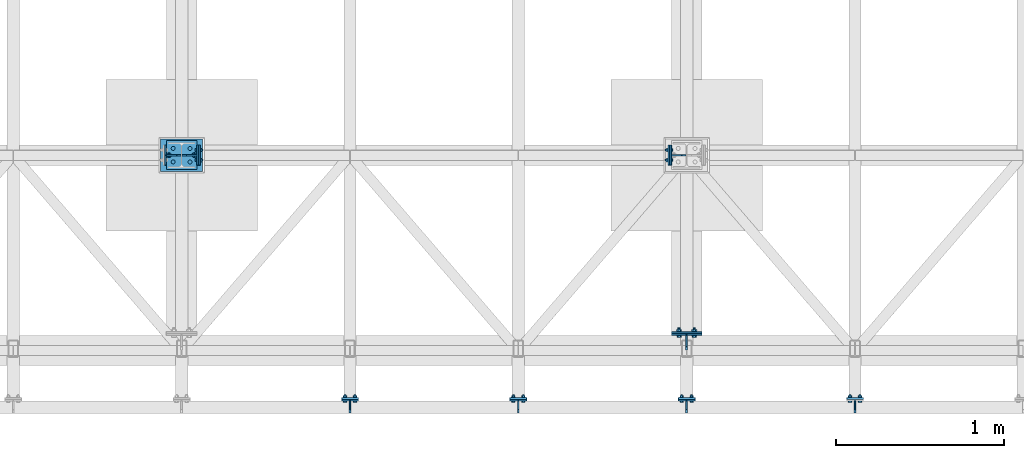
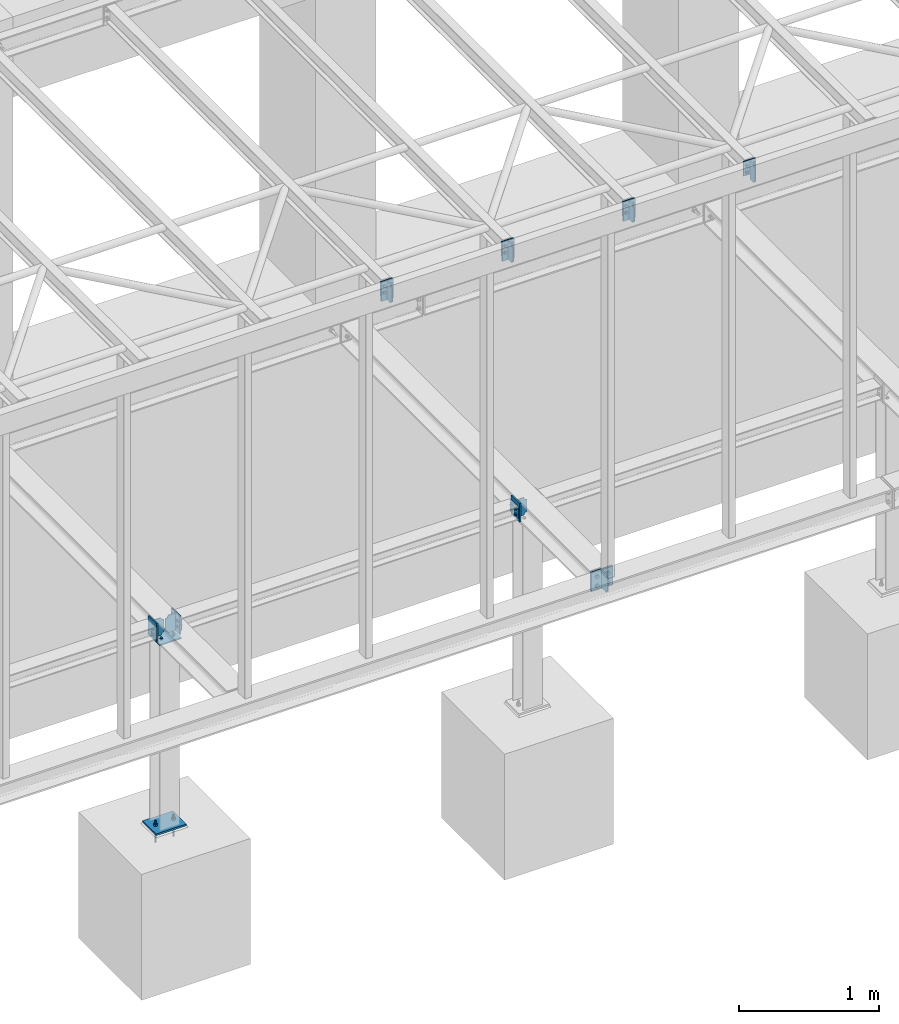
# One storey, part 13 of 22: 24 discrete accessories, 9 mechanical fasteners, 11 elements without a shape of their own.
"""IFC2X3 building model written with IfcOpenShell, lengths in millimetres."""

from ifc_helpers import new_model, si_unit, frame, frame_2d, origin_with_axes, origin_2d_with_axis, place, context, subcontext, project, spatial, polyline, circle_curve, parameter, trimmed, segment, composite_curve, circle, outline, extrude, source, transform, mapped, material, type_object, element, aggregate, save


model = new_model("IFC2X3")

# Units and contexts
model_context = context("Model", 3, precision=1e-05, world=origin_with_axes())
body_context = subcontext(model_context, "Body", "Model", "MODEL_VIEW")
ifc_project = project(units=[si_unit("LENGTHUNIT", "METRE", prefix="MILLI"), si_unit("AREAUNIT", "SQUARE_METRE"), si_unit("VOLUMEUNIT", "CUBIC_METRE"), si_unit("MASSUNIT", "GRAM", prefix="KILO"), si_unit("TIMEUNIT", "SECOND"), si_unit("PLANEANGLEUNIT", "RADIAN"), si_unit("SOLIDANGLEUNIT", "STERADIAN"), si_unit("THERMODYNAMICTEMPERATUREUNIT", "DEGREE_CELSIUS"), si_unit("LUMINOUSINTENSITYUNIT", "LUMEN")], contexts=[model_context])

# Site, building, storey
site_placement = place(None, origin_with_axes())
site = spatial("IfcSite", under=ifc_project, at=site_placement, Name="Undefined", CompositionType="ELEMENT")
building_placement = place(site_placement, origin_with_axes())
building = spatial("IfcBuilding", under=site, at=building_placement, Name="Undefined", CompositionType="ELEMENT")
storey_placement = place(building_placement, origin_with_axes())
storey = spatial("IfcBuildingStorey", under=building, at=storey_placement, Name="Undefined", CompositionType="ELEMENT", Elevation=0.0)

# Assembly, mechanical fastener
assembly_1_placement = place(storey_placement, origin_with_axes())
assembly_1 = element("IfcElementAssembly", 1, at=assembly_1_placement, inside=storey, Name="Steel Assembly", AssemblyPlace="NOTDEFINED", PredefinedType="RIGID_FRAME")
ifc_material_1 = material(Name="Undefined")
discrete_accessory_type_1 = type_object("IfcDiscreteAccessoryType", Name="Bolt assembly")
shared_shape_1 = source(origin_with_axes(), body_context, "Body", "SweptSolid", [
    extrude(circle(Radius=9.0, at=origin_2d_with_axis()), frame((0.0, -15.0, 0.0), z_axis=(0.0, 1.0, 0.0), x_axis=(1.0, 0.0, 0.0)), (0.0, 0.0, 1.0), 15.1),
    extrude(outline(polyline([(7.73649338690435, 0.0), (3.86824669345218, 6.69999980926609), (-3.86824669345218, 6.69999980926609), (-7.73649338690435, 0.0), (-3.86824669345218, -6.69999980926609), (3.86824669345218, -6.69999980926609), (7.73649338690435, 0.0)])), frame((0.0, -147.0, 0.0), z_axis=(0.0, 1.0, 0.0), x_axis=(1.0, 0.0, 0.0)), (0.0, 0.0, 1.0), 132.0),
    extrude(circle(Radius=8.0, at=origin_2d_with_axis()), frame((0.0, -15.0, 0.0), z_axis=(0.0, 1.0, 0.0), x_axis=(1.0, 0.0, 0.0)), (0.0, 0.0, 1.0), 58.0),
    extrude(circle(Radius=15.0, at=origin_2d_with_axis()), frame((0.0, 0.0, 0.0), z_axis=(0.0, 1.0, 0.0), x_axis=(1.0, 0.0, 0.0)), (0.0, 0.0, 1.0), 3.0),
    extrude(outline(polyline([(15.4441197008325, 0.0), (7.72205985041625, 13.3750000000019), (-7.72205985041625, 13.3750000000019), (-15.4441197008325, 0.0), (-7.72205985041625, -13.3750000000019), (7.72205985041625, -13.3750000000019), (15.4441197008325, 0.0)])), frame((0.0, 3.0, 0.0), z_axis=(0.0, 1.0, 0.0), x_axis=(1.0, 0.0, 0.0)), (0.0, 0.0, 1.0), 13.0),
])
mechanical_fastener_1_placement = place(assembly_1_placement, frame((2975.0, 1260.0, -1975.0), z_axis=(0.0, -1.0, 0.0), x_axis=(1.0, 0.0, 0.0)))
mechanical_fastener_1 = element("IfcMechanicalFastener", 2, at=mechanical_fastener_1_placement, type_object=discrete_accessory_type_1, material=ifc_material_1, Name="Bolt assembly", NominalDiameter=16.0, NominalLength=58.0, context=body_context, shape_type="MappedRepresentation", body=[
    mapped(shared_shape_1, transform((0.0, 0.0, 0.0))),
    mapped(shared_shape_1, transform((150.0, 0.0, 0.0))),
])

assembly_2_placement = place(storey_placement, origin_with_axes())
assembly_2 = element("IfcElementAssembly", 3, at=assembly_2_placement, inside=storey, Name="Steel Assembly", AssemblyPlace="NOTDEFINED", PredefinedType="RIGID_FRAME")
shared_shape_2 = source(origin_with_axes(), body_context, "Body", "SweptSolid", [
    extrude(circle(Radius=9.0, at=origin_2d_with_axis()), frame((0.0, -0.1, 0.0), z_axis=(0.0, 1.0, 0.0), x_axis=(1.0, 0.0, 0.0)), (0.0, 0.0, 1.0), 10.1),
    extrude(circle(Radius=9.0, at=origin_2d_with_axis()), frame((0.0, -9.9, 0.0), z_axis=(0.0, 1.0, 0.0), x_axis=(1.0, 0.0, 0.0)), (0.0, 0.0, 1.0), 10.0),
    extrude(outline(polyline([(13.85640646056, 0.0), (6.92820323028, 12.0000000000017), (-6.92820323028, 12.0000000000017), (-13.85640646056, 0.0), (-6.92820323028, -12.0000000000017), (6.92820323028, -12.0000000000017), (13.85640646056, 0.0)])), frame((0.0, -23.0, 0.0), z_axis=(0.0, 1.0, 0.0), x_axis=(1.0, 0.0, 0.0)), (0.0, 0.0, 1.0), 10.0),
    extrude(circle(Radius=8.0, at=origin_2d_with_axis()), frame((0.0, -13.0, 0.0), z_axis=(0.0, 1.0, 0.0), x_axis=(1.0, 0.0, 0.0)), (0.0, 0.0, 1.0), 50.0),
    extrude(circle(Radius=15.0, at=origin_2d_with_axis()), frame((0.0, -13.0, 0.0), z_axis=(0.0, 1.0, 0.0), x_axis=(1.0, 0.0, 0.0)), (0.0, 0.0, 1.0), 3.0),
    extrude(circle(Radius=15.0, at=origin_2d_with_axis()), frame((0.0, 10.0, 0.0), z_axis=(0.0, 1.0, 0.0), x_axis=(1.0, 0.0, 0.0)), (0.0, 0.0, 1.0), 3.0),
    extrude(outline(polyline([(15.4441197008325, 0.0), (7.72205985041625, 13.3750000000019), (-7.72205985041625, 13.3750000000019), (-15.4441197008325, 0.0), (-7.72205985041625, -13.3750000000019), (7.72205985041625, -13.3750000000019), (15.4441197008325, 0.0)])), frame((0.0, 13.0, 0.0), z_axis=(0.0, 1.0, 0.0), x_axis=(1.0, 0.0, 0.0)), (0.0, 0.0, 1.0), 13.0),
])
mechanical_fastener_2_placement = place(assembly_2_placement, frame((6005.0, 200.0, -250.0), z_axis=(0.0, 0.0, 1.0), x_axis=(1.0, 0.0, 0.0)))
mechanical_fastener_2 = element("IfcMechanicalFastener", 4, at=mechanical_fastener_2_placement, type_object=discrete_accessory_type_1, material=ifc_material_1, Name="Bolt assembly", NominalDiameter=16.0, NominalLength=50.0, context=body_context, shape_type="MappedRepresentation", body=[
    mapped(shared_shape_2, transform((0.0, 0.0, -40.0))),
    mapped(shared_shape_2, transform((90.0, 0.0, -40.0))),
    mapped(shared_shape_2, transform((0.0, 0.0, 40.0))),
    mapped(shared_shape_2, transform((90.0, 0.0, 40.0))),
])

# Assembly, discrete accessory
assembly_3_placement = place(storey_placement, origin_with_axes())
assembly_3 = element("IfcElementAssembly", 5, at=assembly_3_placement, inside=storey, Name="Steel Assembly", AssemblyPlace="NOTDEFINED", PredefinedType="RIGID_FRAME")
ifc_material_2 = material(Name="STEEL/S235JR")
discrete_accessory_type_2 = type_object("IfcDiscreteAccessoryType", Name="PLECH")
discrete_accessory_1_placement = place(assembly_3_placement, frame((7050.0, -200.0, 3289.5), z_axis=(1.0, 0.0, 0.0), x_axis=(0.0, -1.0, 0.0)))
discrete_accessory_1 = element("IfcDiscreteAccessory", 6, at=discrete_accessory_1_placement, type_object=discrete_accessory_type_2, material=ifc_material_2, Name="PLECH", ObjectType="PL8*70", context=body_context, shape_type="SweptSolid", body=[
    extrude(outline(composite_curve([segment(polyline([(0.0, 0.0), (49.5, 0.0)]), True, "CONTINUOUS"), segment(trimmed(circle_curve(frame_2d((69.5, 0.0), x_axis=(-1.0, 0.0)), 20.0), [parameter(0.0)], [parameter(4.71238898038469)], False, "PARAMETER"), True, "CONTINUOUS"), segment(polyline([(69.5, 20.0), (69.5, 139.0)]), True, "CONTINUOUS"), segment(trimmed(circle_curve(frame_2d((69.5, 159.0), x_axis=(0.0, -1.0)), 20.0), [parameter(0.0)], [parameter(4.71238898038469)], False, "PARAMETER"), True, "CONTINUOUS"), segment(polyline([(49.5, 159.0), (-3.63797880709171e-12, 159.0), (0.0, 0.0)]), True, "DISCONTINUOUS")], self_intersect=False)), frame((0.0, 0.0, -4.0), z_axis=(0.0, 0.0, 1.0), x_axis=(1.0, 0.0, 0.0)), (0.0, 0.0, 1.0), 8.0),
])

assembly_4_placement = place(storey_placement, origin_with_axes())
assembly_4 = element("IfcElementAssembly", 7, at=assembly_4_placement, inside=storey, Name="Steel Assembly", AssemblyPlace="NOTDEFINED", PredefinedType="RIGID_FRAME")
discrete_accessory_2_placement = place(assembly_4_placement, frame((7000.0, -185.0, 3166.5), z_axis=(0.0, 1.0, 0.0), x_axis=(0.0, 0.0, 1.0)))
discrete_accessory_2 = element("IfcDiscreteAccessory", 8, at=discrete_accessory_2_placement, type_object=discrete_accessory_type_2, material=ifc_material_2, Name="PLECH", ObjectType="PL10*100", context=body_context, shape_type="SweptSolid", body=[
    extrude(outline(polyline([(0.0, 0.0), (127.0, 0.0), (127.0, 100.0), (-9.09494701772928e-13, 100.0), (0.0, 0.0)])), frame((0.0, 0.0, -5.0), z_axis=(0.0, 0.0, 1.0), x_axis=(1.0, 0.0, 0.0)), (0.0, 0.0, 1.0), 10.0),
])
aggregate(assembly_4, [discrete_accessory_2])

assembly_5_placement = place(storey_placement, origin_with_axes())
assembly_5 = element("IfcElementAssembly", 9, at=assembly_5_placement, inside=storey, Name="Steel Assembly", AssemblyPlace="NOTDEFINED", PredefinedType="RIGID_FRAME")
discrete_accessory_3_placement = place(assembly_5_placement, frame((6050.0, -200.0, 3289.5), z_axis=(1.0, 0.0, 0.0), x_axis=(0.0, -1.0, 0.0)))
discrete_accessory_3 = element("IfcDiscreteAccessory", 10, at=discrete_accessory_3_placement, type_object=discrete_accessory_type_2, material=ifc_material_2, Name="PLECH", ObjectType="PL8*70", context=body_context, shape_type="SweptSolid", body=[
    extrude(outline(composite_curve([segment(polyline([(0.0, 0.0), (49.5, 0.0)]), True, "CONTINUOUS"), segment(trimmed(circle_curve(frame_2d((69.5, 0.0), x_axis=(-1.0, 0.0)), 20.0), [parameter(0.0)], [parameter(4.71238898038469)], False, "PARAMETER"), True, "CONTINUOUS"), segment(polyline([(69.5, 20.0), (69.5, 139.0)]), True, "CONTINUOUS"), segment(trimmed(circle_curve(frame_2d((69.5, 159.0), x_axis=(0.0, -1.0)), 20.0), [parameter(0.0)], [parameter(4.71238898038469)], False, "PARAMETER"), True, "CONTINUOUS"), segment(polyline([(49.5, 159.0), (-3.63797880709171e-12, 159.0), (0.0, 0.0)]), True, "DISCONTINUOUS")], self_intersect=False)), frame((0.0, 0.0, -4.0), z_axis=(0.0, 0.0, 1.0), x_axis=(1.0, 0.0, 0.0)), (0.0, 0.0, 1.0), 8.0),
])

assembly_6_placement = place(storey_placement, origin_with_axes())
assembly_6 = element("IfcElementAssembly", 11, at=assembly_6_placement, inside=storey, Name="Steel Assembly", AssemblyPlace="NOTDEFINED", PredefinedType="RIGID_FRAME")
discrete_accessory_4_placement = place(assembly_6_placement, frame((6000.0, -185.0, 3166.5), z_axis=(0.0, 1.0, 0.0), x_axis=(0.0, 0.0, 1.0)))
discrete_accessory_4 = element("IfcDiscreteAccessory", 12, at=discrete_accessory_4_placement, type_object=discrete_accessory_type_2, material=ifc_material_2, Name="PLECH", ObjectType="PL10*100", context=body_context, shape_type="SweptSolid", body=[
    extrude(outline(polyline([(0.0, 0.0), (127.0, 0.0), (127.0, 100.0), (-9.09494701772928e-13, 100.0), (0.0, 0.0)])), frame((0.0, 0.0, -5.0), z_axis=(0.0, 0.0, 1.0), x_axis=(1.0, 0.0, 0.0)), (0.0, 0.0, 1.0), 10.0),
])
aggregate(assembly_6, [discrete_accessory_4])

# Discrete accessory
discrete_accessory_5_placement = place(assembly_5_placement, frame((6000.0, -195.0, 3127.5), z_axis=(0.0, 1.0, 0.0), x_axis=(0.0, 0.0, 1.0)))
discrete_accessory_5 = element("IfcDiscreteAccessory", 13, at=discrete_accessory_5_placement, type_object=discrete_accessory_type_2, material=ifc_material_2, Name="PLECH", ObjectType="PL10*100", context=body_context, shape_type="SweptSolid", body=[
    extrude(outline(polyline([(0.0, 0.0), (166.000015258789, 0.0), (166.000015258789, 100.0), (-9.09494701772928e-13, 100.0), (0.0, 0.0)])), frame((0.0, 0.0, -5.0), z_axis=(0.0, 0.0, 1.0), x_axis=(1.0, 0.0, 0.0)), (0.0, 0.0, 1.0), 10.0),
])

discrete_accessory_6_placement = place(assembly_5_placement, frame((5050.0, -200.0, 3289.5), z_axis=(1.0, 0.0, 0.0), x_axis=(0.0, -1.0, 0.0)))
discrete_accessory_6 = element("IfcDiscreteAccessory", 14, at=discrete_accessory_6_placement, type_object=discrete_accessory_type_2, material=ifc_material_2, Name="PLECH", ObjectType="PL8*70", context=body_context, shape_type="SweptSolid", body=[
    extrude(outline(composite_curve([segment(polyline([(0.0, 0.0), (49.5, 0.0)]), True, "CONTINUOUS"), segment(trimmed(circle_curve(frame_2d((69.5, 0.0), x_axis=(-1.0, 0.0)), 20.0), [parameter(0.0)], [parameter(4.71238898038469)], False, "PARAMETER"), True, "CONTINUOUS"), segment(polyline([(69.5, 20.0), (69.5, 139.0)]), True, "CONTINUOUS"), segment(trimmed(circle_curve(frame_2d((69.5, 159.0), x_axis=(0.0, -1.0)), 20.0), [parameter(0.0)], [parameter(4.71238898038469)], False, "PARAMETER"), True, "CONTINUOUS"), segment(polyline([(49.5, 159.0), (-3.63797880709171e-12, 159.0), (0.0, 0.0)]), True, "DISCONTINUOUS")], self_intersect=False)), frame((0.0, 0.0, -4.0), z_axis=(0.0, 0.0, 1.0), x_axis=(1.0, 0.0, 0.0)), (0.0, 0.0, 1.0), 8.0),
])

# Assembly, discrete accessory
assembly_7_placement = place(storey_placement, origin_with_axes())
assembly_7 = element("IfcElementAssembly", 15, at=assembly_7_placement, inside=storey, Name="Steel Assembly", AssemblyPlace="NOTDEFINED", PredefinedType="RIGID_FRAME")
discrete_accessory_7_placement = place(assembly_7_placement, frame((5000.0, -185.0, 3166.5), z_axis=(0.0, 1.0, 0.0), x_axis=(0.0, 0.0, 1.0)))
discrete_accessory_7 = element("IfcDiscreteAccessory", 16, at=discrete_accessory_7_placement, type_object=discrete_accessory_type_2, material=ifc_material_2, Name="PLECH", ObjectType="PL10*100", context=body_context, shape_type="SweptSolid", body=[
    extrude(outline(polyline([(0.0, 0.0), (127.0, 0.0), (127.0, 100.0), (-9.09494701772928e-13, 100.0), (0.0, 0.0)])), frame((0.0, 0.0, -5.0), z_axis=(0.0, 0.0, 1.0), x_axis=(1.0, 0.0, 0.0)), (0.0, 0.0, 1.0), 10.0),
])
aggregate(assembly_7, [discrete_accessory_7])

# Discrete accessory
discrete_accessory_8_placement = place(assembly_5_placement, frame((5000.0, -195.0, 3127.5), z_axis=(0.0, 1.0, 0.0), x_axis=(0.0, 0.0, 1.0)))
discrete_accessory_8 = element("IfcDiscreteAccessory", 17, at=discrete_accessory_8_placement, type_object=discrete_accessory_type_2, material=ifc_material_2, Name="PLECH", ObjectType="PL10*100", context=body_context, shape_type="SweptSolid", body=[
    extrude(outline(polyline([(0.0, 0.0), (166.000015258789, 0.0), (166.000015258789, 100.0), (-9.09494701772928e-13, 100.0), (0.0, 0.0)])), frame((0.0, 0.0, -5.0), z_axis=(0.0, 0.0, 1.0), x_axis=(1.0, 0.0, 0.0)), (0.0, 0.0, 1.0), 10.0),
])

discrete_accessory_9_placement = place(assembly_5_placement, frame((4050.0, -200.0, 3289.5), z_axis=(1.0, 0.0, 0.0), x_axis=(0.0, -1.0, 0.0)))
discrete_accessory_9 = element("IfcDiscreteAccessory", 18, at=discrete_accessory_9_placement, type_object=discrete_accessory_type_2, material=ifc_material_2, Name="PLECH", ObjectType="PL8*70", context=body_context, shape_type="SweptSolid", body=[
    extrude(outline(composite_curve([segment(polyline([(0.0, 0.0), (49.5, 0.0)]), True, "CONTINUOUS"), segment(trimmed(circle_curve(frame_2d((69.5, 0.0), x_axis=(-1.0, 0.0)), 20.0), [parameter(0.0)], [parameter(4.71238898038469)], False, "PARAMETER"), True, "CONTINUOUS"), segment(polyline([(69.5, 20.0), (69.5, 139.0)]), True, "CONTINUOUS"), segment(trimmed(circle_curve(frame_2d((69.5, 159.0), x_axis=(0.0, -1.0)), 20.0), [parameter(0.0)], [parameter(4.71238898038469)], False, "PARAMETER"), True, "CONTINUOUS"), segment(polyline([(49.5, 159.0), (-3.63797880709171e-12, 159.0), (0.0, 0.0)]), True, "DISCONTINUOUS")], self_intersect=False)), frame((0.0, 0.0, -4.0), z_axis=(0.0, 0.0, 1.0), x_axis=(1.0, 0.0, 0.0)), (0.0, 0.0, 1.0), 8.0),
])

# Assembly, discrete accessory
assembly_8_placement = place(storey_placement, origin_with_axes())
assembly_8 = element("IfcElementAssembly", 19, at=assembly_8_placement, inside=storey, Name="Steel Assembly", AssemblyPlace="NOTDEFINED", PredefinedType="RIGID_FRAME")
discrete_accessory_10_placement = place(assembly_8_placement, frame((4000.0, -185.0, 3166.5), z_axis=(0.0, 1.0, 0.0), x_axis=(0.0, 0.0, 1.0)))
discrete_accessory_10 = element("IfcDiscreteAccessory", 20, at=discrete_accessory_10_placement, type_object=discrete_accessory_type_2, material=ifc_material_2, Name="PLECH", ObjectType="PL10*100", context=body_context, shape_type="SweptSolid", body=[
    extrude(outline(polyline([(0.0, 0.0), (127.0, 0.0), (127.0, 100.0), (-9.09494701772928e-13, 100.0), (0.0, 0.0)])), frame((0.0, 0.0, -5.0), z_axis=(0.0, 0.0, 1.0), x_axis=(1.0, 0.0, 0.0)), (0.0, 0.0, 1.0), 10.0),
])
aggregate(assembly_8, [discrete_accessory_10])

# Discrete accessory
discrete_accessory_11_placement = place(assembly_5_placement, frame((4000.0, -195.0, 3127.5), z_axis=(0.0, 1.0, 0.0), x_axis=(0.0, 0.0, 1.0)))
discrete_accessory_11 = element("IfcDiscreteAccessory", 21, at=discrete_accessory_11_placement, type_object=discrete_accessory_type_2, material=ifc_material_2, Name="PLECH", ObjectType="PL10*100", context=body_context, shape_type="SweptSolid", body=[
    extrude(outline(polyline([(0.0, 0.0), (166.000015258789, 0.0), (166.000015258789, 100.0), (-9.09494701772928e-13, 100.0), (0.0, 0.0)])), frame((0.0, 0.0, -5.0), z_axis=(0.0, 0.0, 1.0), x_axis=(1.0, 0.0, 0.0)), (0.0, 0.0, 1.0), 10.0),
])

discrete_accessory_12_placement = place(assembly_1_placement, frame((3140.0, 1346.0, -345.0), z_axis=(0.0, 0.0, 1.0), x_axis=(-1.0, 0.0, 0.0)))
discrete_accessory_12 = element("IfcDiscreteAccessory", 22, at=discrete_accessory_12_placement, type_object=discrete_accessory_type_2, material=ifc_material_2, Name="PLECH", ObjectType="PL10*172", context=body_context, shape_type="SweptSolid", body=[
    extrude(outline(polyline([(0.0, 0.0), (180.0, 0.0), (180.0, 172.0), (0.0, 172.0), (0.0, 0.0)])), frame((0.0, 0.0, -5.0), z_axis=(0.0, 0.0, 1.0), x_axis=(1.0, 0.0, 0.0)), (0.0, 0.0, 1.0), 10.0),
])

discrete_accessory_13_placement = place(assembly_2_placement, frame((5960.0, 195.0, -168.0), z_axis=(0.0, 1.0, 0.0), x_axis=(1.0, 0.0, 0.0)))
discrete_accessory_13 = element("IfcDiscreteAccessory", 23, at=discrete_accessory_13_placement, type_object=discrete_accessory_type_2, material=ifc_material_2, Name="PLECH", ObjectType="PL10*164", context=body_context, shape_type="SweptSolid", body=[
    extrude(outline(polyline([(0.0, 0.0), (180.0, 0.0), (180.0, 164.0), (0.0, 164.0), (0.0, 0.0)])), frame((0.0, 0.0, -5.0), z_axis=(0.0, 0.0, 1.0), x_axis=(1.0, 0.0, 0.0)), (0.0, 0.0, 1.0), 10.0),
])

discrete_accessory_14_placement = place(assembly_2_placement, frame((6050.0, 190.0, -174.0), z_axis=(1.0, 0.0, 0.0), x_axis=(0.0, -1.0, 0.0)))
discrete_accessory_14 = element("IfcDiscreteAccessory", 24, at=discrete_accessory_14_placement, type_object=discrete_accessory_type_2, material=ifc_material_2, Name="PLECH", ObjectType="PL8*86", context=body_context, shape_type="SweptSolid", body=[
    extrude(outline(composite_curve([segment(polyline([(0.0, 0.0), (65.75, 0.0)]), True, "CONTINUOUS"), segment(trimmed(circle_curve(frame_2d((85.75, 0.0), x_axis=(-1.0, 0.0)), 20.0), [parameter(0.0)], [parameter(4.71238898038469)], False, "PARAMETER"), True, "CONTINUOUS"), segment(polyline([(85.75, 20.0), (85.75, 132.0)]), True, "CONTINUOUS"), segment(trimmed(circle_curve(frame_2d((85.75, 152.0), x_axis=(0.0, -1.0)), 20.0), [parameter(0.0)], [parameter(4.71238898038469)], False, "PARAMETER"), True, "CONTINUOUS"), segment(polyline([(65.75, 152.0), (0.0, 152.0), (0.0, 0.0)]), True, "DISCONTINUOUS")], self_intersect=False)), frame((0.0, 0.0, -4.0), z_axis=(0.0, 0.0, 1.0), x_axis=(1.0, 0.0, 0.0)), (0.0, 0.0, 1.0), 8.0),
])

aggregate(assembly_2, [mechanical_fastener_2, discrete_accessory_13, discrete_accessory_14])

# Assembly, discrete accessories
assembly_9_placement = place(storey_placement, origin_with_axes())
assembly_9 = element("IfcElementAssembly", 25, at=assembly_9_placement, inside=storey, Name="Steel Assembly", AssemblyPlace="NOTDEFINED", PredefinedType="RIGID_FRAME")
discrete_accessory_15_placement = place(assembly_9_placement, frame((5960.0, 205.0, -168.0), z_axis=(0.0, 1.0, 0.0), x_axis=(1.0, 0.0, 0.0)))
discrete_accessory_15 = element("IfcDiscreteAccessory", 26, at=discrete_accessory_15_placement, type_object=discrete_accessory_type_2, material=ifc_material_2, Name="PLECH", ObjectType="PL10*164", context=body_context, shape_type="SweptSolid", body=[
    extrude(outline(polyline([(0.0, 0.0), (180.0, 0.0), (180.0, 164.0), (0.0, 164.0), (0.0, 0.0)])), frame((0.0, 0.0, -5.0), z_axis=(0.0, 0.0, 1.0), x_axis=(1.0, 0.0, 0.0)), (0.0, 0.0, 1.0), 10.0),
])
discrete_accessory_16_placement = place(assembly_9_placement, frame((5960.0, 1260.0, -174.0), z_axis=(0.0, 1.0, 0.0), x_axis=(1.0, 0.0, 0.0)))
discrete_accessory_16 = element("IfcDiscreteAccessory", 27, at=discrete_accessory_16_placement, type_object=discrete_accessory_type_2, material=ifc_material_2, Name="PLECH", ObjectType="PL8*86", context=body_context, shape_type="SweptSolid", body=[
    extrude(outline(composite_curve([segment(polyline([(0.0, 0.0), (60.5, 0.0)]), True, "CONTINUOUS"), segment(trimmed(circle_curve(frame_2d((85.5, 0.0), x_axis=(-1.0, 0.0)), 25.0), [parameter(0.0)], [parameter(4.71238898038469)], False, "PARAMETER"), True, "CONTINUOUS"), segment(polyline([(85.5, 25.0), (85.5, 127.0)]), True, "CONTINUOUS"), segment(trimmed(circle_curve(frame_2d((85.5, 152.0), x_axis=(0.0, -1.0)), 25.0), [parameter(0.0)], [parameter(4.71238898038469)], False, "PARAMETER"), True, "CONTINUOUS"), segment(polyline([(60.5, 152.0), (0.0, 152.0), (0.0, 0.0)]), True, "DISCONTINUOUS")], self_intersect=False)), frame((0.0, 0.0, -4.0), z_axis=(0.0, 0.0, 1.0), x_axis=(1.0, 0.0, 0.0)), (0.0, 0.0, 1.0), 8.0),
])

# Assembly, discrete accessory
assembly_10_placement = place(storey_placement, origin_with_axes())
assembly_10 = element("IfcElementAssembly", 28, at=assembly_10_placement, inside=storey, Name="Steel Assembly", AssemblyPlace="NOTDEFINED", PredefinedType="RIGID_FRAME")
discrete_accessory_17_placement = place(assembly_10_placement, frame((3155.0, 1200.0, -299.0), z_axis=(-1.0, 0.0, 0.0), x_axis=(0.0, 0.0, 1.0)))
discrete_accessory_17 = element("IfcDiscreteAccessory", 29, at=discrete_accessory_17_placement, type_object=discrete_accessory_type_2, material=ifc_material_2, Name="PLECH", ObjectType="PL10*98", context=body_context, shape_type="SweptSolid", body=[
    extrude(outline(polyline([(0.0, 0.0), (98.0, 4.54747350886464e-13), (98.0, 120.0), (0.0, 120.0), (0.0, 0.0)])), frame((0.0, 0.0, -5.0), z_axis=(0.0, 0.0, 1.0), x_axis=(1.0, 0.0, 0.0)), (0.0, 0.0, 1.0), 10.0),
])

# Assembly, discrete accessories
assembly_11_placement = place(storey_placement, origin_with_axes())
assembly_11 = element("IfcElementAssembly", 30, at=assembly_11_placement, inside=storey, Name="Steel Assembly", AssemblyPlace="NOTDEFINED", PredefinedType="RIGID_FRAME")
discrete_accessory_18_placement = place(assembly_11_placement, frame((3140.0, 1260.0, -174.0), z_axis=(0.0, -1.0, 0.0), x_axis=(-1.0, 0.0, 0.0)))
discrete_accessory_18 = element("IfcDiscreteAccessory", 31, at=discrete_accessory_18_placement, type_object=discrete_accessory_type_2, material=ifc_material_2, Name="PLECH", ObjectType="PL8*86", context=body_context, shape_type="SweptSolid", body=[
    extrude(outline(composite_curve([segment(polyline([(0.0, 0.0), (60.5, 0.0)]), True, "CONTINUOUS"), segment(trimmed(circle_curve(frame_2d((85.5, 0.0), x_axis=(-1.0, 0.0)), 25.0), [parameter(0.0)], [parameter(4.71238898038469)], False, "PARAMETER"), True, "CONTINUOUS"), segment(polyline([(85.5, 25.0), (85.5, 127.0)]), True, "CONTINUOUS"), segment(trimmed(circle_curve(frame_2d((85.5, 152.0), x_axis=(0.0, -1.0)), 25.0), [parameter(0.0)], [parameter(4.71238898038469)], False, "PARAMETER"), True, "CONTINUOUS"), segment(polyline([(60.5, 152.0), (0.0, 152.0), (0.0, 0.0)]), True, "DISCONTINUOUS")], self_intersect=False)), frame((0.0, 0.0, -4.0), z_axis=(0.0, 0.0, 1.0), x_axis=(1.0, 0.0, 0.0)), (0.0, 0.0, 1.0), 8.0),
])
discrete_accessory_19_placement = place(assembly_11_placement, frame((3145.0, 1200.0, -332.0), z_axis=(-1.0, 0.0, 0.0), x_axis=(0.0, 0.0, 1.0)))
discrete_accessory_19 = element("IfcDiscreteAccessory", 32, at=discrete_accessory_19_placement, type_object=discrete_accessory_type_2, material=ifc_material_2, Name="PLECH", ObjectType="PL10*120", context=body_context, shape_type="SweptSolid", body=[
    extrude(outline(polyline([(0.0, 0.0), (164.0, 4.54747350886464e-13), (164.0, 120.0), (0.0, 120.0), (0.0, 0.0)])), frame((0.0, 0.0, -5.0), z_axis=(0.0, 0.0, 1.0), x_axis=(1.0, 0.0, 0.0)), (0.0, 0.0, 1.0), 10.0),
])

# Discrete accessory
discrete_accessory_20_placement = place(assembly_10_placement, frame((5945.0, 1200.0, -299.0), z_axis=(-1.0, 0.0, 0.0), x_axis=(0.0, 0.0, 1.0)))
discrete_accessory_20 = element("IfcDiscreteAccessory", 33, at=discrete_accessory_20_placement, type_object=discrete_accessory_type_2, material=ifc_material_2, Name="PLECH", ObjectType="PL10*98", context=body_context, shape_type="SweptSolid", body=[
    extrude(outline(polyline([(0.0, 0.0), (98.0, 4.54747350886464e-13), (98.0, 120.0), (0.0, 120.0), (0.0, 0.0)])), frame((0.0, 0.0, -5.0), z_axis=(0.0, 0.0, 1.0), x_axis=(1.0, 0.0, 0.0)), (0.0, 0.0, 1.0), 10.0),
])

aggregate(assembly_10, [discrete_accessory_17, discrete_accessory_20])

discrete_accessory_21_placement = place(assembly_9_placement, frame((5955.0, 1200.0, -332.0), z_axis=(-1.0, 0.0, 0.0), x_axis=(0.0, 0.0, 1.0)))
discrete_accessory_21 = element("IfcDiscreteAccessory", 34, at=discrete_accessory_21_placement, type_object=discrete_accessory_type_2, material=ifc_material_2, Name="PLECH", ObjectType="PL10*120", context=body_context, shape_type="SweptSolid", body=[
    extrude(outline(polyline([(0.0, 0.0), (164.0, 4.54747350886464e-13), (164.0, 120.0), (0.0, 120.0), (0.0, 0.0)])), frame((0.0, 0.0, -5.0), z_axis=(0.0, 0.0, 1.0), x_axis=(1.0, 0.0, 0.0)), (0.0, 0.0, 1.0), 10.0),
])

discrete_accessory_22_placement = place(assembly_1_placement, frame((3175.0, 1356.0, -1982.5), z_axis=(0.0, 0.0, 1.0), x_axis=(-1.0, 0.0, 0.0)))
discrete_accessory_22 = element("IfcDiscreteAccessory", 35, at=discrete_accessory_22_placement, type_object=discrete_accessory_type_2, material=ifc_material_2, Name="PLECH", ObjectType="PL15*192", context=body_context, shape_type="SweptSolid", body=[
    extrude(outline(polyline([(0.0, 0.0), (250.0, 0.0), (250.0, 192.0), (0.0, 192.0), (0.0, 0.0)])), frame((0.0, 0.0, -7.5), z_axis=(0.0, 0.0, 1.0), x_axis=(1.0, 0.0, 0.0)), (0.0, 0.0, 1.0), 15.0),
])

discrete_accessory_23_placement = place(assembly_11_placement, frame((2960.0, 1260.0, -174.0), z_axis=(0.0, 1.0, 0.0), x_axis=(1.0, 0.0, 0.0)))
discrete_accessory_23 = element("IfcDiscreteAccessory", 36, at=discrete_accessory_23_placement, type_object=discrete_accessory_type_2, material=ifc_material_2, Name="PLECH", ObjectType="PL8*86", context=body_context, shape_type="SweptSolid", body=[
    extrude(outline(composite_curve([segment(polyline([(0.0, 0.0), (60.5, 0.0)]), True, "CONTINUOUS"), segment(trimmed(circle_curve(frame_2d((85.5, 0.0), x_axis=(-1.0, 0.0)), 25.0), [parameter(0.0)], [parameter(4.71238898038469)], False, "PARAMETER"), True, "CONTINUOUS"), segment(polyline([(85.5, 25.0), (85.5, 127.0)]), True, "CONTINUOUS"), segment(trimmed(circle_curve(frame_2d((85.5, 152.0), x_axis=(0.0, -1.0)), 25.0), [parameter(0.0)], [parameter(4.71238898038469)], False, "PARAMETER"), True, "CONTINUOUS"), segment(polyline([(60.5, 152.0), (0.0, 152.0), (0.0, 0.0)]), True, "DISCONTINUOUS")], self_intersect=False)), frame((0.0, 0.0, -4.0), z_axis=(0.0, 0.0, 1.0), x_axis=(1.0, 0.0, 0.0)), (0.0, 0.0, 1.0), 8.0),
])

discrete_accessory_24_placement = place(assembly_11_placement, frame((2955.0, 1200.0, -332.0), z_axis=(-1.0, 0.0, 0.0), x_axis=(0.0, 0.0, 1.0)))
discrete_accessory_24 = element("IfcDiscreteAccessory", 37, at=discrete_accessory_24_placement, type_object=discrete_accessory_type_2, material=ifc_material_2, Name="PLECH", ObjectType="PL10*120", context=body_context, shape_type="SweptSolid", body=[
    extrude(outline(polyline([(0.0, 0.0), (164.0, 4.54747350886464e-13), (164.0, 120.0), (0.0, 120.0), (0.0, 0.0)])), frame((0.0, 0.0, -5.0), z_axis=(0.0, 0.0, 1.0), x_axis=(1.0, 0.0, 0.0)), (0.0, 0.0, 1.0), 10.0),
])

# Mechanical fastener
shared_shape_3 = source(origin_with_axes(), body_context, "Body", "SweptSolid", [
    extrude(circle(Radius=6.5, at=origin_2d_with_axis()), frame((0.0, -13.9, 0.0), z_axis=(0.0, 1.0, 0.0), x_axis=(1.0, 0.0, 0.0)), (0.0, 0.0, 1.0), 14.0),
    extrude(circle(Radius=6.5, at=origin_2d_with_axis()), frame((0.0, -0.1, 0.0), z_axis=(0.0, 1.0, 0.0), x_axis=(1.0, 0.0, 0.0)), (0.0, 0.0, 1.0), 10.1),
    extrude(outline(polyline([(10.39230484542, 0.0), (5.19615242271, 9.00000000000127), (-5.19615242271, 9.00000000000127), (-10.39230484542, 0.0), (-5.19615242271, -9.00000000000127), (5.19615242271, -9.00000000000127), (10.39230484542, 0.0)])), frame((0.0, -24.0, 0.0), z_axis=(0.0, 1.0, 0.0), x_axis=(1.0, 0.0, 0.0)), (0.0, 0.0, 1.0), 7.5),
    extrude(circle(Radius=6.0, at=origin_2d_with_axis()), frame((0.0, -16.5, 0.0), z_axis=(0.0, 1.0, 0.0), x_axis=(1.0, 0.0, 0.0)), (0.0, 0.0, 1.0), 45.0),
    extrude(circle(Radius=12.0, at=origin_2d_with_axis()), frame((0.0, -16.5, 0.0), z_axis=(0.0, 1.0, 0.0), x_axis=(1.0, 0.0, 0.0)), (0.0, 0.0, 1.0), 2.5),
    extrude(circle(Radius=12.0, at=origin_2d_with_axis()), frame((0.0, 10.0, 0.0), z_axis=(0.0, 1.0, 0.0), x_axis=(1.0, 0.0, 0.0)), (0.0, 0.0, 1.0), 2.5),
    extrude(outline(polyline([(10.96965511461, 0.0), (5.484827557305, 9.50000000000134), (-5.484827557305, 9.50000000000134), (-10.96965511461, 0.0), (-5.484827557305, -9.50000000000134), (5.484827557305, -9.50000000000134), (10.96965511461, 0.0)])), frame((0.0, 12.5, 0.0), z_axis=(0.0, 1.0, 0.0), x_axis=(1.0, 0.0, 0.0)), (0.0, 0.0, 1.0), 10.0),
])
mechanical_fastener_3_placement = place(assembly_1_placement, frame((3000.0, 1260.0, -340.0), z_axis=(0.0, 1.0, 0.0), x_axis=(1.0, 0.0, 0.0)))
mechanical_fastener_3 = element("IfcMechanicalFastener", 38, at=mechanical_fastener_3_placement, type_object=discrete_accessory_type_1, material=ifc_material_1, Name="Bolt assembly", NominalDiameter=12.0, NominalLength=45.0, context=body_context, shape_type="MappedRepresentation", body=[
    mapped(shared_shape_3, transform((0.0, 0.0, -40.0))),
    mapped(shared_shape_3, transform((100.0, 0.0, -40.0))),
    mapped(shared_shape_3, transform((0.0, 0.0, 40.0))),
    mapped(shared_shape_3, transform((100.0, 0.0, 40.0))),
])

aggregate(assembly_1, [mechanical_fastener_3, discrete_accessory_12, mechanical_fastener_1, discrete_accessory_22])

shared_shape_4 = source(origin_with_axes(), body_context, "Body", "SweptSolid", [
    extrude(circle(Radius=6.5, at=origin_2d_with_axis()), frame((0.0, -0.1, 0.0), z_axis=(0.0, 1.0, 0.0), x_axis=(1.0, 0.0, 0.0)), (0.0, 0.0, 1.0), 10.1),
    extrude(circle(Radius=6.5, at=origin_2d_with_axis()), frame((0.0, -9.9, 0.0), z_axis=(0.0, 1.0, 0.0), x_axis=(1.0, 0.0, 0.0)), (0.0, 0.0, 1.0), 10.0),
    extrude(outline(polyline([(10.96965511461, 0.0), (5.484827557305, 9.50000000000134), (-5.484827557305, 9.50000000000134), (-10.96965511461, 0.0), (-5.484827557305, -9.50000000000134), (5.484827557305, -9.50000000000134), (10.96965511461, 0.0)])), frame((0.0, -20.0, 0.0), z_axis=(0.0, 1.0, 0.0), x_axis=(1.0, 0.0, 0.0)), (0.0, 0.0, 1.0), 7.5),
    extrude(circle(Radius=6.0, at=origin_2d_with_axis()), frame((0.0, -12.5, 0.0), z_axis=(0.0, 1.0, 0.0), x_axis=(1.0, 0.0, 0.0)), (0.0, 0.0, 1.0), 40.0),
    extrude(circle(Radius=12.0, at=origin_2d_with_axis()), frame((0.0, -12.5, 0.0), z_axis=(0.0, 1.0, 0.0), x_axis=(1.0, 0.0, 0.0)), (0.0, 0.0, 1.0), 2.5),
    extrude(circle(Radius=12.0, at=origin_2d_with_axis()), frame((0.0, 10.0, 0.0), z_axis=(0.0, 1.0, 0.0), x_axis=(1.0, 0.0, 0.0)), (0.0, 0.0, 1.0), 2.5),
    extrude(outline(polyline([(10.96965511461, 0.0), (5.484827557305, 9.50000000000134), (-5.484827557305, 9.50000000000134), (-10.96965511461, 0.0), (-5.484827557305, -9.50000000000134), (5.484827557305, -9.50000000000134), (10.96965511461, 0.0)])), frame((0.0, 12.5, 0.0), z_axis=(0.0, 1.0, 0.0), x_axis=(1.0, 0.0, 0.0)), (0.0, 0.0, 1.0), 10.0),
])
mechanical_fastener_4_placement = place(assembly_3_placement, frame((7020.0, -190.0, 3230.0), z_axis=(0.0, 0.0, 1.0), x_axis=(1.0, 0.0, 0.0)))
mechanical_fastener_4 = element("IfcMechanicalFastener", 39, at=mechanical_fastener_4_placement, type_object=discrete_accessory_type_1, material=ifc_material_1, Name="Bolt assembly", NominalDiameter=12.0, NominalLength=40.0, context=body_context, shape_type="MappedRepresentation", body=[
    mapped(shared_shape_4, transform((0.0, 0.0, 30.0))),
    mapped(shared_shape_4, transform((60.0, 0.0, 30.0))),
    mapped(shared_shape_4, transform((0.0, 0.0, -30.0))),
    mapped(shared_shape_4, transform((60.0, 0.0, -30.0))),
])

aggregate(assembly_3, [mechanical_fastener_4, discrete_accessory_1])

mechanical_fastener_5_placement = place(assembly_5_placement, frame((6020.0, -190.0, 3230.0), z_axis=(0.0, 0.0, 1.0), x_axis=(1.0, 0.0, 0.0)))
mechanical_fastener_5 = element("IfcMechanicalFastener", 40, at=mechanical_fastener_5_placement, type_object=discrete_accessory_type_1, material=ifc_material_1, Name="Bolt assembly", NominalDiameter=12.0, NominalLength=40.0, context=body_context, shape_type="MappedRepresentation", body=[
    mapped(shared_shape_4, transform((0.0, 0.0, 30.0))),
    mapped(shared_shape_4, transform((60.0, 0.0, 30.0))),
    mapped(shared_shape_4, transform((0.0, 0.0, -30.0))),
    mapped(shared_shape_4, transform((60.0, 0.0, -30.0))),
])

mechanical_fastener_6_placement = place(assembly_5_placement, frame((5020.0, -190.0, 3230.0), z_axis=(0.0, 0.0, 1.0), x_axis=(1.0, 0.0, 0.0)))
mechanical_fastener_6 = element("IfcMechanicalFastener", 41, at=mechanical_fastener_6_placement, type_object=discrete_accessory_type_1, material=ifc_material_1, Name="Bolt assembly", NominalDiameter=12.0, NominalLength=40.0, context=body_context, shape_type="MappedRepresentation", body=[
    mapped(shared_shape_4, transform((0.0, 0.0, 30.0))),
    mapped(shared_shape_4, transform((60.0, 0.0, 30.0))),
    mapped(shared_shape_4, transform((0.0, 0.0, -30.0))),
    mapped(shared_shape_4, transform((60.0, 0.0, -30.0))),
])

mechanical_fastener_7_placement = place(assembly_5_placement, frame((4020.0, -190.0, 3230.0), z_axis=(0.0, 0.0, 1.0), x_axis=(1.0, 0.0, 0.0)))
mechanical_fastener_7 = element("IfcMechanicalFastener", 42, at=mechanical_fastener_7_placement, type_object=discrete_accessory_type_1, material=ifc_material_1, Name="Bolt assembly", NominalDiameter=12.0, NominalLength=40.0, context=body_context, shape_type="MappedRepresentation", body=[
    mapped(shared_shape_4, transform((0.0, 0.0, 30.0))),
    mapped(shared_shape_4, transform((60.0, 0.0, 30.0))),
    mapped(shared_shape_4, transform((0.0, 0.0, -30.0))),
    mapped(shared_shape_4, transform((60.0, 0.0, -30.0))),
])

aggregate(assembly_5, [mechanical_fastener_5, discrete_accessory_3, discrete_accessory_5, mechanical_fastener_6, discrete_accessory_6, discrete_accessory_8, mechanical_fastener_7, discrete_accessory_9, discrete_accessory_11])

shared_shape_5 = source(origin_with_axes(), body_context, "Body", "SweptSolid", [
    extrude(circle(Radius=6.5, at=origin_2d_with_axis()), frame((0.0, -4.1, 0.0), z_axis=(0.0, 1.0, 0.0), x_axis=(1.0, 0.0, 0.0)), (0.0, 0.0, 1.0), 10.1),
    extrude(circle(Radius=6.5, at=origin_2d_with_axis()), frame((0.0, -13.9, 0.0), z_axis=(0.0, 1.0, 0.0), x_axis=(1.0, 0.0, 0.0)), (0.0, 0.0, 1.0), 10.0),
    extrude(outline(polyline([(10.39230484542, 0.0), (5.19615242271, 9.00000000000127), (-5.19615242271, 9.00000000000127), (-10.39230484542, 0.0), (-5.19615242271, -9.00000000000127), (5.19615242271, -9.00000000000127), (10.39230484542, 0.0)])), frame((0.0, -24.0, 0.0), z_axis=(0.0, 1.0, 0.0), x_axis=(1.0, 0.0, 0.0)), (0.0, 0.0, 1.0), 7.5),
    extrude(circle(Radius=6.0, at=origin_2d_with_axis()), frame((0.0, -16.5, 0.0), z_axis=(0.0, 1.0, 0.0), x_axis=(1.0, 0.0, 0.0)), (0.0, 0.0, 1.0), 40.0),
    extrude(circle(Radius=12.0, at=origin_2d_with_axis()), frame((0.0, -16.5, 0.0), z_axis=(0.0, 1.0, 0.0), x_axis=(1.0, 0.0, 0.0)), (0.0, 0.0, 1.0), 2.5),
    extrude(circle(Radius=12.0, at=origin_2d_with_axis()), frame((0.0, 6.0, 0.0), z_axis=(0.0, 1.0, 0.0), x_axis=(1.0, 0.0, 0.0)), (0.0, 0.0, 1.0), 2.5),
    extrude(outline(polyline([(10.96965511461, 0.0), (5.484827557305, 9.50000000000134), (-5.484827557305, 9.50000000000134), (-10.96965511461, 0.0), (-5.484827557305, -9.50000000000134), (5.484827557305, -9.50000000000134), (10.96965511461, 0.0)])), frame((0.0, 8.5, 0.0), z_axis=(0.0, 1.0, 0.0), x_axis=(1.0, 0.0, 0.0)), (0.0, 0.0, 1.0), 10.0),
])
mechanical_fastener_8_placement = place(assembly_11_placement, frame((3154.0, 1260.0, -225.0), z_axis=(0.0, -1.0, 0.0), x_axis=(0.0, 0.0, -1.0)))
mechanical_fastener_8 = element("IfcMechanicalFastener", 43, at=mechanical_fastener_8_placement, type_object=discrete_accessory_type_1, material=ifc_material_1, Name="Bolt assembly", NominalDiameter=12.0, NominalLength=40.0, context=body_context, shape_type="MappedRepresentation", body=[
    mapped(shared_shape_5, transform((0.0, 0.0, 30.0))),
    mapped(shared_shape_5, transform((50.0, 0.0, 30.0))),
    mapped(shared_shape_5, transform((0.0, 0.0, -30.0))),
    mapped(shared_shape_5, transform((50.0, 0.0, -30.0))),
])

aggregate(assembly_11, [mechanical_fastener_8, discrete_accessory_18, discrete_accessory_19, discrete_accessory_23, discrete_accessory_24])

mechanical_fastener_9_placement = place(assembly_9_placement, frame((5946.0, 1260.0, -225.0), z_axis=(0.0, 1.0, 0.0), x_axis=(0.0, 0.0, -1.0)))
mechanical_fastener_9 = element("IfcMechanicalFastener", 44, at=mechanical_fastener_9_placement, type_object=discrete_accessory_type_1, material=ifc_material_1, Name="Bolt assembly", NominalDiameter=12.0, NominalLength=40.0, context=body_context, shape_type="MappedRepresentation", body=[
    mapped(shared_shape_5, transform((0.0, 0.0, -30.0))),
    mapped(shared_shape_5, transform((50.0, 0.0, -30.0))),
    mapped(shared_shape_5, transform((0.0, 0.0, 30.0))),
    mapped(shared_shape_5, transform((50.0, 0.0, 30.0))),
])

aggregate(assembly_9, [discrete_accessory_15, discrete_accessory_16, mechanical_fastener_9, discrete_accessory_21])

save(model, "model.ifc")
